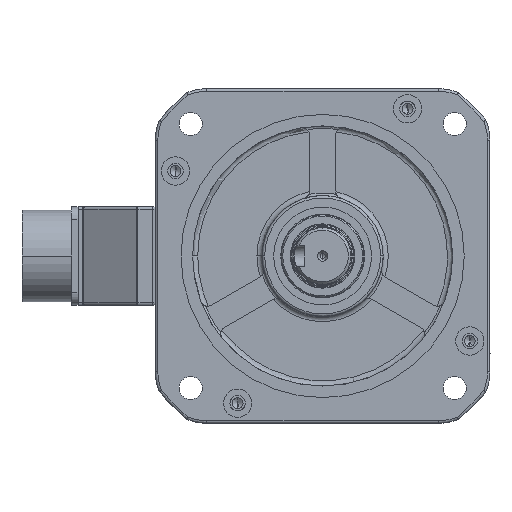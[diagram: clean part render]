
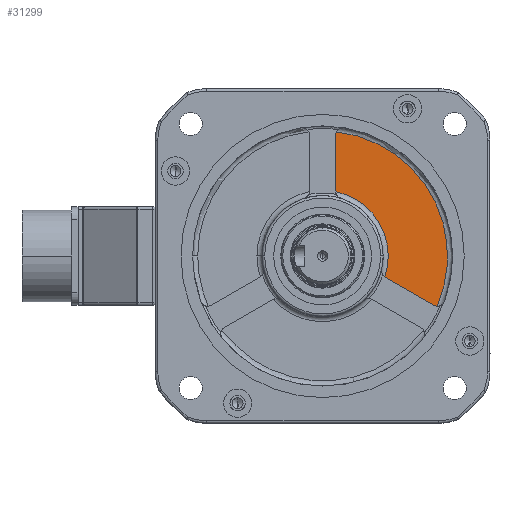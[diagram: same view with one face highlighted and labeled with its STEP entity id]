
A CAD part, left-side view. The second image highlights one B-rep face of the part: STEP entity #31299.
In plain terms, the highlighted planar face has unit normal (-1, 0, 0) as drawn and (0, 0, 1) by its records, which use the part's own axes.
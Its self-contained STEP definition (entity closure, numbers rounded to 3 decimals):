
#222 = DIRECTION ( 'NONE',  ( 0., -1., 0. ) ) ;
#2193 = AXIS2_PLACEMENT_3D ( 'NONE', #47523, #73937, #28713 ) ;
#3033 = DIRECTION ( 'NONE',  ( 1., 0., 0. ) ) ;
#3194 = DIRECTION ( 'NONE',  ( 0., 0., 1. ) ) ;
#3806 = VERTEX_POINT ( 'NONE', #59821 ) ;
#5773 = EDGE_CURVE ( 'NONE', #76971, #16442, #83170, .T. ) ;
#7266 = ORIENTED_EDGE ( 'NONE', *, *, #5773, .T. ) ;
#7755 = CARTESIAN_POINT ( 'NONE',  ( -2.5, -4.33, 0.5 ) ) ;
#7956 = EDGE_CURVE ( 'NONE', #43132, #3806, #12771, .T. ) ;
#10331 = EDGE_CURVE ( 'NONE', #3806, #54687, #34852, .T. ) ;
#10530 = CARTESIAN_POINT ( 'NONE',  ( -44.416, 19.48, 0.5 ) ) ;
#11402 = EDGE_CURVE ( 'NONE', #11942, #36520, #34974, .T. ) ;
#11942 = VERTEX_POINT ( 'NONE', #36717 ) ;
#12345 = CARTESIAN_POINT ( 'NONE',  ( 0., 0., 0.5 ) ) ;
#12771 = CIRCLE ( 'NONE', #20955, 48.5 ) ;
#13879 = LINE ( 'NONE', #77532, #56484 ) ;
#15289 = ORIENTED_EDGE ( 'NONE', *, *, #10331, .T. ) ;
#16442 = VERTEX_POINT ( 'NONE', #41557 ) ;
#17485 = DIRECTION ( 'NONE',  ( 0., 0., 1. ) ) ;
#17809 = CARTESIAN_POINT ( 'NONE',  ( 0., 0., 0.5 ) ) ;
#18926 = CARTESIAN_POINT ( 'NONE',  ( -5., -46.821, 0.5 ) ) ;
#19227 = EDGE_LOOP ( 'NONE', ( #7266, #28258, #62430, #66644, #47212, #39050, #15289, #69909 ) ) ;
#20955 = AXIS2_PLACEMENT_3D ( 'NONE', #12345, #17485, #30771 ) ;
#22852 = DIRECTION ( 'NONE',  ( 1., 0., 0. ) ) ;
#22919 = CIRCLE ( 'NONE', #81552, 3. ) ;
#25250 = CARTESIAN_POINT ( 'NONE',  ( -43.049, 19.081, 0.5 ) ) ;
#28258 = ORIENTED_EDGE ( 'NONE', *, *, #74227, .T. ) ;
#28713 = DIRECTION ( 'NONE',  ( 1., 0., 0. ) ) ;
#30771 = DIRECTION ( 'NONE',  ( 1., 0., 0. ) ) ;
#31299 = ADVANCED_FACE ( 'NONE', ( #43668 ), #56485, .T. ) ;
#31973 = DIRECTION ( 'NONE',  ( 0., 0., 1. ) ) ;
#34852 = CIRCLE ( 'NONE', #68897, 3. ) ;
#34974 = CIRCLE ( 'NONE', #2193, 3. ) ;
#36520 = VERTEX_POINT ( 'NONE', #78890 ) ;
#36717 = CARTESIAN_POINT ( 'NONE',  ( -24.159, 8.161, 0.5 ) ) ;
#39050 = ORIENTED_EDGE ( 'NONE', *, *, #7956, .T. ) ;
#41557 = CARTESIAN_POINT ( 'NONE',  ( -5.011, -25.003, 0.5 ) ) ;
#41628 = DIRECTION ( 'NONE',  ( 0., 0., 1. ) ) ;
#42219 = VECTOR ( 'NONE', #66286, 1000. ) ;
#43132 = VERTEX_POINT ( 'NONE', #10530 ) ;
#43668 = FACE_OUTER_BOUND ( 'NONE', #19227, .T. ) ;
#46406 = AXIS2_PLACEMENT_3D ( 'NONE', #81748, #3194, #22852 ) ;
#47212 = ORIENTED_EDGE ( 'NONE', *, *, #67634, .T. ) ;
#47523 = CARTESIAN_POINT ( 'NONE',  ( -25.879, 5.704, 0.5 ) ) ;
#48948 = CIRCLE ( 'NONE', #62491, 25.5 ) ;
#54687 = VERTEX_POINT ( 'NONE', #18926 ) ;
#54725 = AXIS2_PLACEMENT_3D ( 'NONE', #75237, #69677, #55641 ) ;
#55641 = DIRECTION ( 'NONE',  ( 1., 0., 0. ) ) ;
#56484 = VECTOR ( 'NONE', #222, 1000. ) ;
#56485 = PLANE ( 'NONE',  #54725 ) ;
#59821 = CARTESIAN_POINT ( 'NONE',  ( -5.338, -48.205, 0.5 ) ) ;
#62430 = ORIENTED_EDGE ( 'NONE', *, *, #11402, .T. ) ;
#62491 = AXIS2_PLACEMENT_3D ( 'NONE', #17809, #63126, #80317 ) ;
#63126 = DIRECTION ( 'NONE',  ( 0., 0., -1. ) ) ;
#63694 = CARTESIAN_POINT ( 'NONE',  ( -5., -25.264, 0.5 ) ) ;
#63867 = EDGE_CURVE ( 'NONE', #76971, #54687, #13879, .T. ) ;
#66286 = DIRECTION ( 'NONE',  ( -0.866, 0.5, 0. ) ) ;
#66644 = ORIENTED_EDGE ( 'NONE', *, *, #75312, .T. ) ;
#67634 = EDGE_CURVE ( 'NONE', #80793, #43132, #22919, .T. ) ;
#68897 = AXIS2_PLACEMENT_3D ( 'NONE', #82754, #31973, #3033 ) ;
#69677 = DIRECTION ( 'NONE',  ( 0., 0., 1. ) ) ;
#69909 = ORIENTED_EDGE ( 'NONE', *, *, #63867, .F. ) ;
#71831 = LINE ( 'NONE', #7755, #42219 ) ;
#72810 = DIRECTION ( 'NONE',  ( 1., 0., 0. ) ) ;
#73633 = CARTESIAN_POINT ( 'NONE',  ( -44.549, 16.483, 0.5 ) ) ;
#73937 = DIRECTION ( 'NONE',  ( 0., 0., 1. ) ) ;
#74227 = EDGE_CURVE ( 'NONE', #16442, #11942, #48948, .T. ) ;
#75237 = CARTESIAN_POINT ( 'NONE',  ( 0., 0., 0.5 ) ) ;
#75312 = EDGE_CURVE ( 'NONE', #36520, #80793, #71831, .T. ) ;
#76971 = VERTEX_POINT ( 'NONE', #63694 ) ;
#77532 = CARTESIAN_POINT ( 'NONE',  ( -5., 0., 0.5 ) ) ;
#78890 = CARTESIAN_POINT ( 'NONE',  ( -24.379, 8.302, 0.5 ) ) ;
#80317 = DIRECTION ( 'NONE',  ( 1., 0., 0. ) ) ;
#80793 = VERTEX_POINT ( 'NONE', #25250 ) ;
#81552 = AXIS2_PLACEMENT_3D ( 'NONE', #73633, #41628, #72810 ) ;
#81748 = CARTESIAN_POINT ( 'NONE',  ( -8., -25.264, 0.5 ) ) ;
#82754 = CARTESIAN_POINT ( 'NONE',  ( -8., -46.821, 0.5 ) ) ;
#83170 = CIRCLE ( 'NONE', #46406, 3. ) ;
